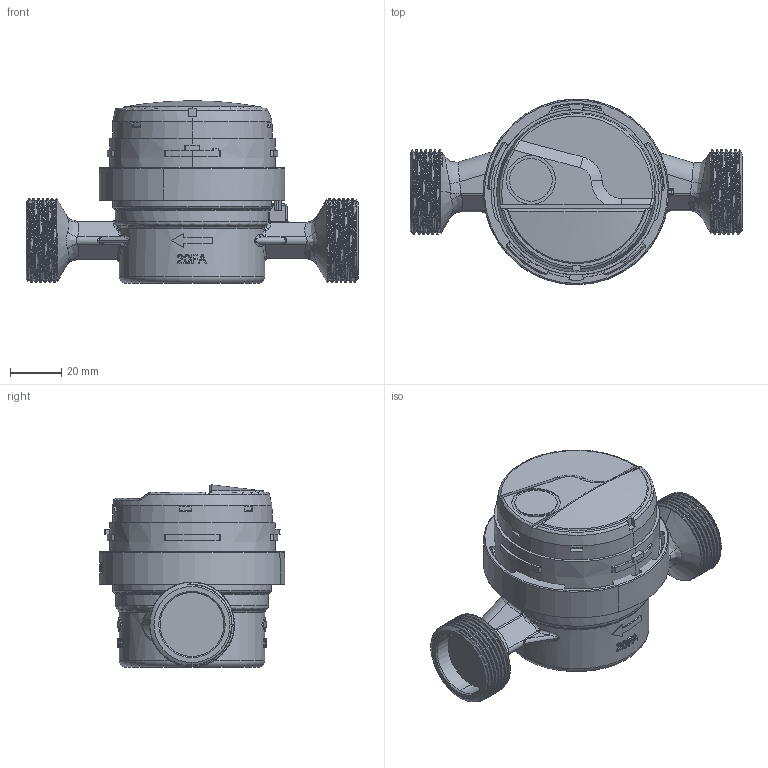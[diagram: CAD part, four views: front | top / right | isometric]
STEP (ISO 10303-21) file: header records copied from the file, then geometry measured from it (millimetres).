
FILE_DESCRIPTION (( 'STEP AP214' ), '1' );
FILE_NAME ('JS90-2,5-G1-07.STEP', '2025-06-06T07:54:10', ( '' ), ( '' ), 'SwSTEP 2.0', 'SolidWorks 2019', '' );
FILE_SCHEMA (( 'AUTOMOTIVE_DESIGN' ));
Length unit declared in the file: millimetre
Products named in the file (9): Assembly-1108.STEP; szklanka.STEP; js2,5g1.STEP; JS90-2,5-G1-07.STEP; 9060-000022.STEP; 9004-750201.STEP; JS90-2,5-G1-07; 9004-750202_zagi_ta.STEP; Liczyd_o.STEP
Assembly tree (8 placements, depth 4):
  JS90-2,5-G1-07
    JS90-2,5-G1-07.STEP
      Assembly-1108.STEP
        9004-750201.STEP
        9004-750202_zagi_ta.STEP
      js2,5g1.STEP
      Liczyd_o.STEP
      szklanka.STEP
      9060-000022.STEP
Bounding box: 130 x 72.7 x 71.38 mm (x, y, z)
Volume: 220430.6 mm3; surface area: 66725.2 mm2
Topology: 7 solids, 16 shells, 2020 faces, 5696 edges, 3764 vertices
Faces by surface type: plane 844, cylinder 473, bspline 470, cone 138, torus 77, sphere 18
Entity records: 123858 total; most frequent: CARTESIAN_POINT 69694, ORIENTED_EDGE 11362, DIRECTION 8305, EDGE_CURVE 5681, VERTEX_POINT 3764, AXIS2_PLACEMENT_3D 3032, LINE 2241, VECTOR 2241
